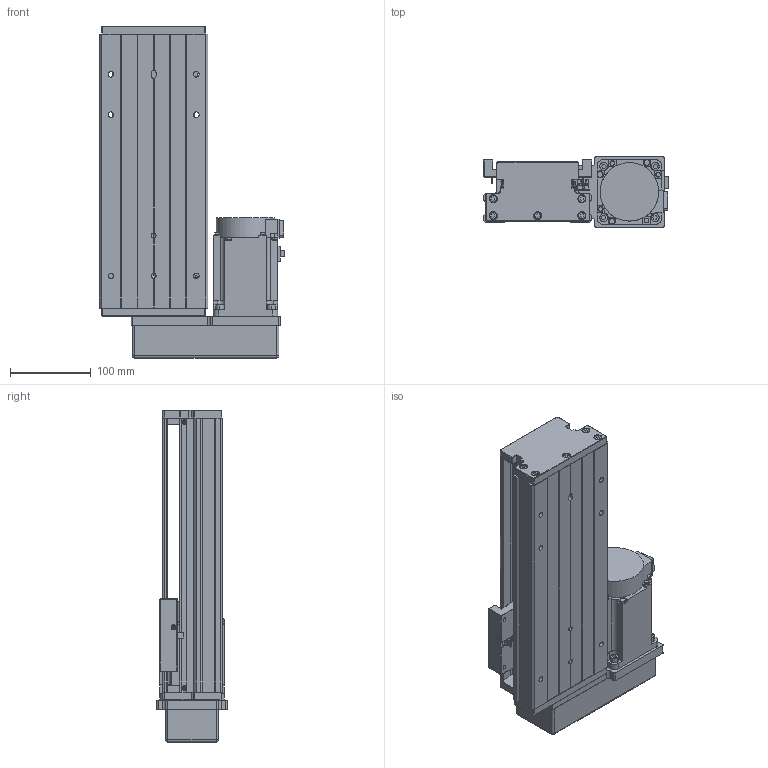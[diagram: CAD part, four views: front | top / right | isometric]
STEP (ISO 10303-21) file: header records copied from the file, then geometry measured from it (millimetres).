
FILE_DESCRIPTION (( 'STEP AP203' ), '1' );
FILE_NAME ('KTH130-200-BR-M75-C4.step', '2023-06-30T04:54:46', ( '微软用户' ), ( '微软中国' ), 'SwSTEP 2.0', 'SolidWorks 2020', '' );
FILE_SCHEMA (( 'CONFIG_CONTROL_DESIGN' ));
Length unit declared in the file: millimetre
Products named in the file (18): GBT 70.2-M3¡Á5_M3¡Á6; GBT 70.3-M3℅8; GTH14-001_200; CTHA60-017; hg-kn73j_-s100; KTH130-002_KTH130-002; EE_SX911P_R; CTHA86-015-3_CTHA86-015-4; KTH130-004; CTHA60-016; CTHA86-035; KTH130-005; GBT 70.1-M3℅5; KTH130-200-BR-M75-C4; GB1155-6X6; GBT77-2000 M3×3; GBT70.1 M5℅16; す晦芛蹟隊 M3℅5
Assembly tree (49 placements, depth 2):
  KTH130-200-BR-M75-C4
    GTH14-001_200
    KTH130-002_KTH130-002
    KTH130-004
    KTH130-005
    GB1155-6X6  x2
    GBT70.1 M5℅16  x10
    GBT 70.2-M3¡Á5_M3¡Á6  x4
    CTHA60-017  x3
    EE_SX911P_R  x3
    CTHA60-016  x2
    GBT 70.1-M3℅5  x6
    GBT77-2000 M3×3  x6
    す晦芛蹟隊 M3℅5  x2
    GBT 70.3-M3℅8  x4
    hg-kn73j_-s100
    CTHA86-015-3_CTHA86-015-4
    CTHA86-035
Bounding box: 230.3 x 87 x 412 mm (x, y, z)
Volume: 3417903.5 mm3; surface area: 498630.1 mm2
Topology: 52 solids, 52 shells, 2172 faces, 5268 edges, 3295 vertices
Faces by surface type: plane 1204, cylinder 614, cone 238, torus 100, sphere 16
Entity records: 39329 total; most frequent: CARTESIAN_POINT 6622, DIRECTION 6457, ORIENTED_EDGE 6040, EDGE_CURVE 3020, AXIS2_PLACEMENT_3D 2248, VECTOR 1961, LINE 1961, VERTEX_POINT 1929
